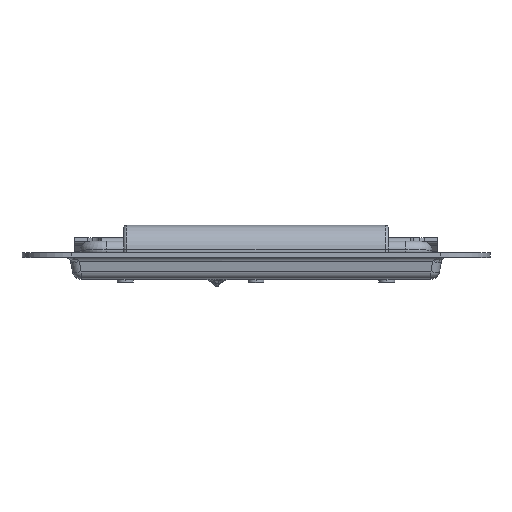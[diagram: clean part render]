
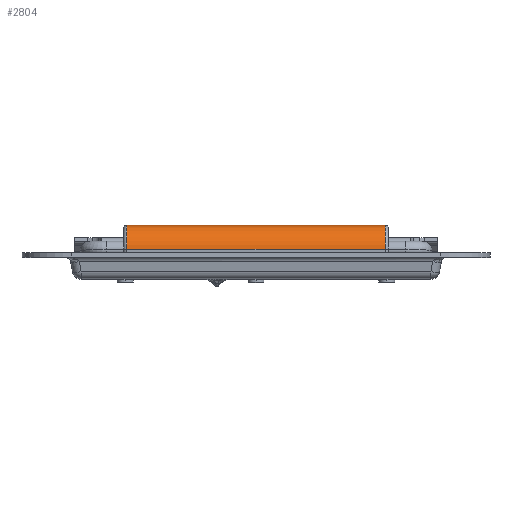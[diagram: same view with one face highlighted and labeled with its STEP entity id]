
A CAD part, top view. The second image highlights one B-rep face of the part: STEP entity #2804.
In plain terms, the highlighted cylindrical face has radius 8.5 mm (diameter 17 mm), a partial arc.
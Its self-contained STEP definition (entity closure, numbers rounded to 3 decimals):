
#98 = LINE ( 'NONE', #2937, #3174 ) ;
#306 = CARTESIAN_POINT ( 'NONE',  ( -45.5, 0., 50. ) ) ;
#881 = DIRECTION ( 'NONE',  ( -1., 0., 0. ) ) ;
#956 = ORIENTED_EDGE ( 'NONE', *, *, #7836, .T. ) ;
#958 = AXIS2_PLACEMENT_3D ( 'NONE', #306, #3139, #5983 ) ;
#1188 = DIRECTION ( 'NONE',  ( 1., 0., 0. ) ) ;
#1925 = ORIENTED_EDGE ( 'NONE', *, *, #3380, .T. ) ;
#1971 = VECTOR ( 'NONE', #2174, 1000. ) ;
#1996 = CARTESIAN_POINT ( 'NONE',  ( -44.5, 0., 41.5 ) ) ;
#2115 = AXIS2_PLACEMENT_3D ( 'NONE', #7581, #1188, #4034 ) ;
#2174 = DIRECTION ( 'NONE',  ( 1., 0., 0. ) ) ;
#2570 = VERTEX_POINT ( 'NONE', #7073 ) ;
#2616 = VERTEX_POINT ( 'NONE', #5720 ) ;
#2804 = ADVANCED_FACE ( 'NONE', ( #3842 ), #6688, .T. ) ;
#2901 = AXIS2_PLACEMENT_3D ( 'NONE', #5118, #881, #3718 ) ;
#2907 = CARTESIAN_POINT ( 'NONE',  ( -44.5, 0., 58.5 ) ) ;
#2937 = CARTESIAN_POINT ( 'NONE',  ( -45.5, 0., 58.5 ) ) ;
#3139 = DIRECTION ( 'NONE',  ( 1., 0., 0. ) ) ;
#3174 = VECTOR ( 'NONE', #5779, 1000. ) ;
#3380 = EDGE_CURVE ( 'NONE', #9104, #5679, #6125, .T. ) ;
#3718 = DIRECTION ( 'NONE',  ( 0., 0., -1. ) ) ;
#3842 = FACE_OUTER_BOUND ( 'NONE', #7454, .T. ) ;
#4034 = DIRECTION ( 'NONE',  ( 0., 0., -1. ) ) ;
#4439 = EDGE_CURVE ( 'NONE', #9104, #2616, #5706, .T. ) ;
#4928 = EDGE_CURVE ( 'NONE', #5679, #2570, #98, .T. ) ;
#5118 = CARTESIAN_POINT ( 'NONE',  ( 44.5, 0., 50. ) ) ;
#5358 = ORIENTED_EDGE ( 'NONE', *, *, #4928, .T. ) ;
#5679 = VERTEX_POINT ( 'NONE', #2907 ) ;
#5706 = LINE ( 'NONE', #8562, #1971 ) ;
#5720 = CARTESIAN_POINT ( 'NONE',  ( 44.5, 0., 41.5 ) ) ;
#5779 = DIRECTION ( 'NONE',  ( 1., 0., 0. ) ) ;
#5983 = DIRECTION ( 'NONE',  ( 0., 0., -1. ) ) ;
#6125 = CIRCLE ( 'NONE', #2115, 8.5 ) ;
#6602 = ORIENTED_EDGE ( 'NONE', *, *, #4439, .F. ) ;
#6688 = CYLINDRICAL_SURFACE ( 'NONE', #958, 8.5 ) ;
#6908 = CIRCLE ( 'NONE', #2901, 8.5 ) ;
#7073 = CARTESIAN_POINT ( 'NONE',  ( 44.5, 0., 58.5 ) ) ;
#7454 = EDGE_LOOP ( 'NONE', ( #1925, #5358, #956, #6602 ) ) ;
#7581 = CARTESIAN_POINT ( 'NONE',  ( -44.5, 0., 50. ) ) ;
#7836 = EDGE_CURVE ( 'NONE', #2570, #2616, #6908, .T. ) ;
#8562 = CARTESIAN_POINT ( 'NONE',  ( -45.5, 0., 41.5 ) ) ;
#9104 = VERTEX_POINT ( 'NONE', #1996 ) ;
